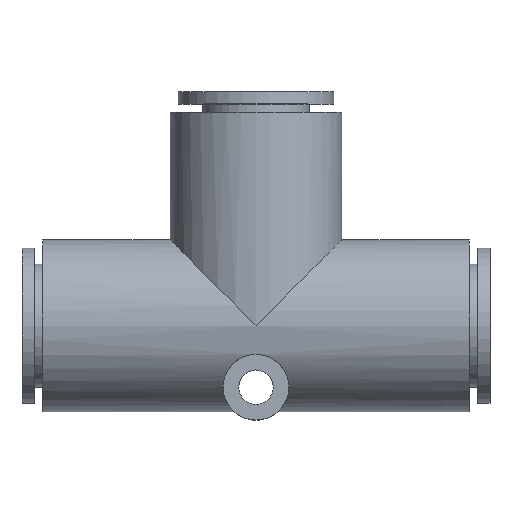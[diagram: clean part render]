
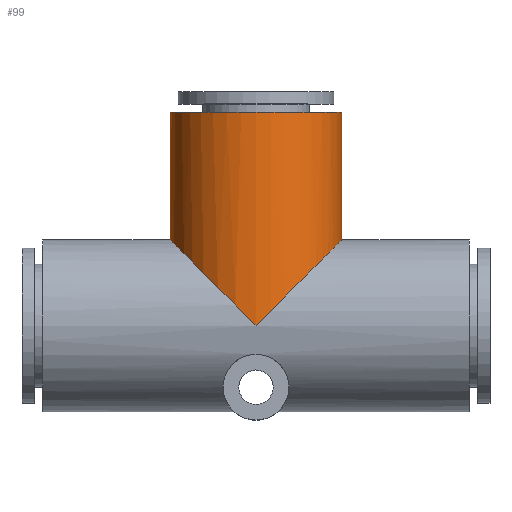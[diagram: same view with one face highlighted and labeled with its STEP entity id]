
A CAD part, top view. The second image highlights one B-rep face of the part: STEP entity #99.
In plain terms, the highlighted cylindrical face has radius 10.45 mm (diameter 20.9 mm), a partial arc.
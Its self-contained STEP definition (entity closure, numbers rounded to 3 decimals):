
#99 = ADVANCED_FACE( '', ( #167 ), #168, .T. );
#167 = FACE_OUTER_BOUND( '', #260, .T. );
#168 = CYLINDRICAL_SURFACE( '', #261, 10.45 );
#260 = EDGE_LOOP( '', ( #479, #480, #481, #482, #483 ) );
#261 = AXIS2_PLACEMENT_3D( '', #484, #485, #486 );
#479 = ORIENTED_EDGE( '', *, *, #641, .T. );
#480 = ORIENTED_EDGE( '', *, *, #679, .F. );
#481 = ORIENTED_EDGE( '', *, *, #642, .T. );
#482 = ORIENTED_EDGE( '', *, *, #680, .F. );
#483 = ORIENTED_EDGE( '', *, *, #681, .F. );
#484 = CARTESIAN_POINT( '', ( 0., 13., 0. ) );
#485 = DIRECTION( '', ( 0., -1., 0. ) );
#486 = DIRECTION( '', ( 1., 0., 0. ) );
#641 = EDGE_CURVE( '', #713, #766, #767, .T. );
#642 = EDGE_CURVE( '', #768, #729, #769, .T. );
#679 = EDGE_CURVE( '', #768, #766, #828, .T. );
#680 = EDGE_CURVE( '', #829, #729, #830, .T. );
#681 = EDGE_CURVE( '', #713, #829, #831, .T. );
#713 = VERTEX_POINT( '', #867 );
#729 = VERTEX_POINT( '', #949 );
#766 = VERTEX_POINT( '', #995 );
#767 = LINE( '', #996, #997 );
#768 = VERTEX_POINT( '', #998 );
#769 = LINE( '', #999, #1000 );
#828 = CIRCLE( '', #1134, 10.45 );
#829 = VERTEX_POINT( '', #1135 );
#830 = ELLIPSE( '', #1136, 14.779, 10.45 );
#831 = ELLIPSE( '', #1137, 14.779, 10.45 );
#867 = CARTESIAN_POINT( '', ( 10.45, 10.45, 0. ) );
#949 = CARTESIAN_POINT( '', ( -10.45, 10.45, 0. ) );
#995 = CARTESIAN_POINT( '', ( 10.45, 26., 0. ) );
#996 = CARTESIAN_POINT( '', ( 10.45, 13., 0. ) );
#997 = VECTOR( '', #1216, 1. );
#998 = CARTESIAN_POINT( '', ( -10.45, 26., 0. ) );
#999 = CARTESIAN_POINT( '', ( -10.45, 13., 0. ) );
#1000 = VECTOR( '', #1217, 1. );
#1134 = AXIS2_PLACEMENT_3D( '', #1293, #1294, #1295 );
#1135 = CARTESIAN_POINT( '', ( 0., 0., 10.45 ) );
#1136 = AXIS2_PLACEMENT_3D( '', #1296, #1297, #1298 );
#1137 = AXIS2_PLACEMENT_3D( '', #1299, #1300, #1301 );
#1216 = DIRECTION( '', ( 0., 1., 0. ) );
#1217 = DIRECTION( '', ( 0., -1., 0. ) );
#1293 = CARTESIAN_POINT( '', ( 0., 26., 0. ) );
#1294 = DIRECTION( '', ( 0., 1., 0. ) );
#1295 = DIRECTION( '', ( 1., 0., 0. ) );
#1296 = CARTESIAN_POINT( '', ( 0., 0., 0. ) );
#1297 = DIRECTION( '', ( -0.707, -0.707, 0. ) );
#1298 = DIRECTION( '', ( 0.707, -0.707, 0. ) );
#1299 = CARTESIAN_POINT( '', ( 0., 0., 0. ) );
#1300 = DIRECTION( '', ( 0.707, -0.707, 0. ) );
#1301 = DIRECTION( '', ( 0.707, 0.707, 0. ) );
